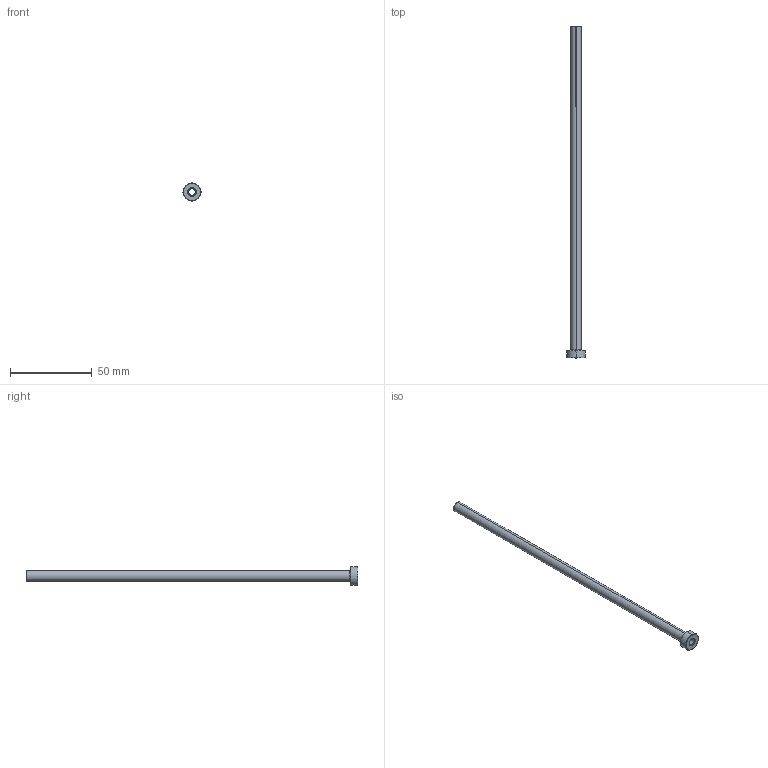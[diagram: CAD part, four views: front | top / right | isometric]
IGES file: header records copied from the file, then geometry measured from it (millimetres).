
Start section: SolidWorks IGES file using analytic representation for surfaces
Global section: file name: C:\Users\365admin\AppData\Local\Temp\InFlowXlateWorking\ES156L8-OS.igs; native system: SolidWorks 2018; preprocessor: SolidWorks 2018; author: 365admin; date: 200822.100557; units: inch
Bounding box: 11.1 x 203.2 x 11.1 mm (x, y, z)
Surface area: 7040.6 mm2 (no closed solid volume)
Topology: 0 solids, 0 shells, 21 faces, 264 edges, 264 vertices
Faces by surface type: revolution 16, bspline 5
